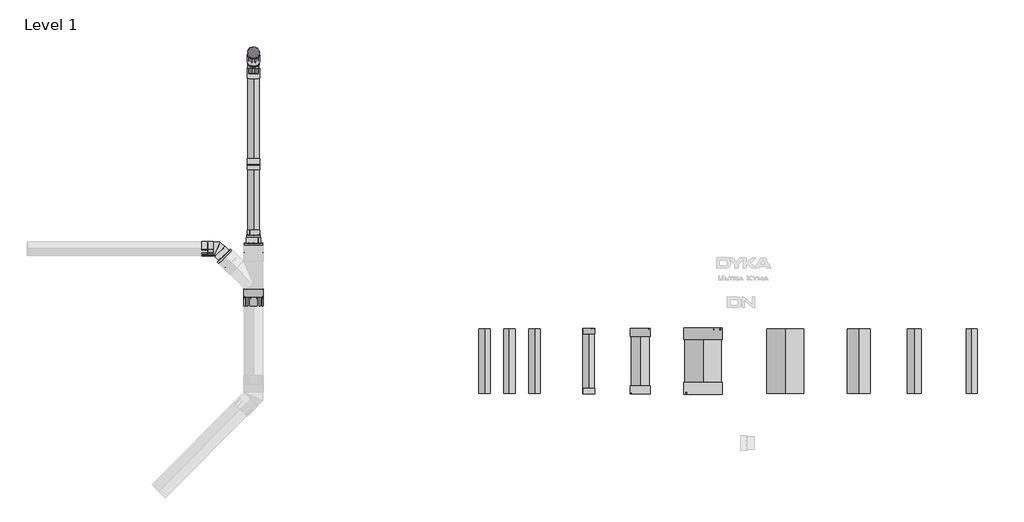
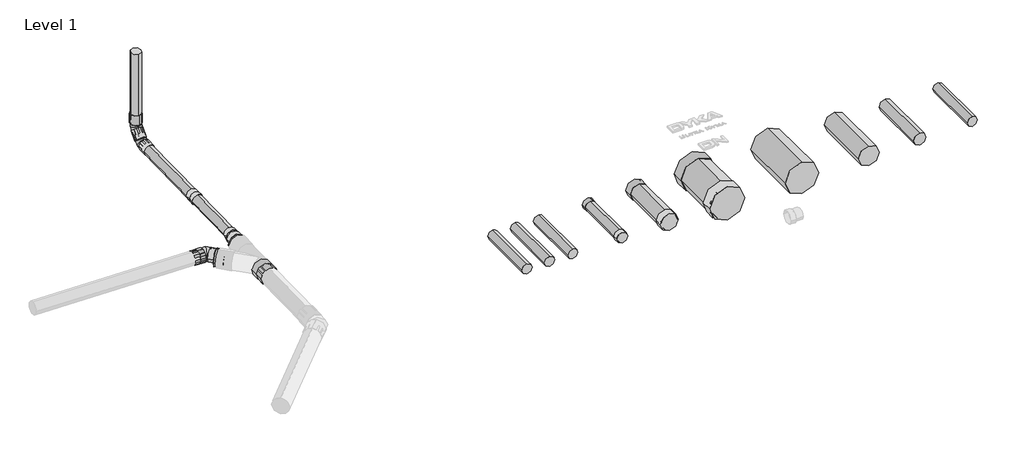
# One storey, part 2 of 2: 32 pipe fittings, 13 pipe segments.
"""IFC4 building model written with IfcOpenShell, lengths in millimetres."""

from ifc_helpers import new_model, si_unit, point, frame, frame_2d, origin, place, context, project, spatial, circle_curve, trimmed, segment, composite_curve, outline, extrude, transform, mapped, element, save
from components import zwart_4540c7c7, zwart_ccf00192, zwart_fea47d13, zwart_6c612464, std_dbbd8e8e, std_6883be76, std_358442b3, std_5c18e9fd, std_nested_292d5628, std_nested_15c7ba10, std_nested_ccdd82c8, std_nested_235c0f0a, std_nested_61e00e23, std_nested_169e8520

model = new_model("IFC4")

# Units and contexts
model_context = context("Model", 3, world=origin())
ifc_project = project(units=[si_unit("LENGTHUNIT", "METRE", prefix="MILLI")], contexts=[model_context])

# Site, building, storey
site = spatial("IfcSite", under=ifc_project)
building = spatial("IfcBuilding", under=site)
storey = spatial("IfcBuildingStorey", under=building, Name="Level 1", Elevation=0.0)

# Pipe fittings
placement = place(None, origin())
zwart_shape = zwart_4540c7c7(model_context)
element("IfcPipeFitting", 1, ObjectType="NLRS_52_PIF_UN_Ultra Kyma afsluitkap LV_Dyka : Zwart", at=placement, inside=storey, context=model_context, shape_type="MappedRepresentation", body=[
    mapped(zwart_shape, transform((4535.5611732, 2310.5607604, 0.0), x_axis=(0.0, 1.0, 0.0), y_axis=(-1.0, 0.0, 0.0), z_axis=(0.0, 0.0, 1.0))),
])
element("IfcPipeFitting", 2, ObjectType="NLRS_52_PIF_UN_Ultra Kyma afsluitkap LV_Dyka : Zwart", at=placement, inside=storey, context=model_context, shape_type="MappedRepresentation", body=[
    mapped(zwart_shape, transform((4535.5611732, 710.5607604, 0.0), x_axis=(0.0, -1.0, 0.0), y_axis=(1.0, 0.0, 0.0), z_axis=(0.0, 0.0, 1.0))),
])
zwart_2_shape = zwart_ccf00192(model_context)
element("IfcPipeFitting", 3, ObjectType="NLRS_52_PIF_UN_Ultra Kyma afsluitkap LV_Dyka : Zwart", at=placement, inside=storey, context=model_context, shape_type="MappedRepresentation", body=[
    mapped(zwart_2_shape, transform((3261.5483891, 2310.5607604, 0.0), x_axis=(0.0, 1.0, 0.0), y_axis=(-1.0, 0.0, 0.0), z_axis=(0.0, 0.0, 1.0))),
])
element("IfcPipeFitting", 4, ObjectType="NLRS_52_PIF_UN_Ultra Kyma afsluitkap LV_Dyka : Zwart", at=placement, inside=storey, context=model_context, shape_type="MappedRepresentation", body=[
    mapped(zwart_2_shape, transform((3261.5483891, 710.5607604, 0.0), x_axis=(0.0, -1.0, 0.0), y_axis=(1.0, 0.0, 0.0), z_axis=(0.0, 0.0, 1.0))),
])
zwart_3_shape = zwart_fea47d13(model_context)
element("IfcPipeFitting", 5, ObjectType="NLRS_52_PIF_UN_Ultra Kyma afsluitkap LV_Dyka : Zwart", at=placement, inside=storey, context=model_context, shape_type="MappedRepresentation", body=[
    mapped(zwart_3_shape, transform((6089.0815114, 2310.5607604, 0.0), x_axis=(0.0, 1.0, 0.0), y_axis=(-1.0, 0.0, 0.0), z_axis=(0.0, 0.0, 1.0))),
])
element("IfcPipeFitting", 6, ObjectType="NLRS_52_PIF_UN_Ultra Kyma afsluitkap LV_Dyka : Zwart", at=placement, inside=storey, context=model_context, shape_type="MappedRepresentation", body=[
    mapped(zwart_3_shape, transform((6089.0815114, 710.5607604, 0.0), x_axis=(0.0, -1.0, 0.0), y_axis=(1.0, 0.0, 0.0), z_axis=(0.0, 0.0, 1.0))),
])
zwart_4_shape = zwart_6c612464(model_context)
element("IfcPipeFitting", 7, ObjectType="NLRS_52_PIF_UN_Ultra Kyma buis mof_Dyka : Zwart", at=placement, inside=storey, context=model_context, shape_type="MappedRepresentation", body=[
    mapped(zwart_4_shape, transform((-5013.9809017, 6380.7654847, 617.7667566), x_axis=(0.0, -0.999800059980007, -0.019996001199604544), y_axis=(1.0000000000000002, 0.0, 0.0), z_axis=(0.0, -0.019996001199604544, 0.999800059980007))),
])
std_shape = std_dbbd8e8e(model_context)
element("IfcPipeFitting", 8, ObjectType="NLRS_52_PIF_WPB_Ultra Kyma dichtingsring SH_Dyka : std", at=placement, inside=storey, context=model_context, shape_type="MappedRepresentation", body=[
    mapped(std_shape, transform((4535.5611732, 2310.5607604, 0.0), x_axis=(0.0, 0.0, 1.0), y_axis=(-1.0, 0.0, 0.0), z_axis=(0.0, -1.0, 0.0))),
])
element("IfcPipeFitting", 9, ObjectType="NLRS_52_PIF_WPB_Ultra Kyma dichtingsring SH_Dyka : std", at=placement, inside=storey, context=model_context, shape_type="MappedRepresentation", body=[
    mapped(std_shape, transform((4535.5611732, 710.5607604, 0.0), x_axis=(0.0, 0.0, 1.0), y_axis=(1.0, 0.0, 0.0), z_axis=(0.0, 1.0, 0.0))),
])
element("IfcPipeFitting", 10, ObjectType="NLRS_52_PIF_WPB_Ultra Kyma dichtingsring SH_Dyka : std", at=placement, inside=storey, context=model_context, shape_type="MappedRepresentation", body=[
    mapped(std_shape, transform((-5013.9809017, 4180.7647204, 498.7517428), x_axis=(-0.9998001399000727, -0.00039976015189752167, 0.01998800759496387), y_axis=(0.019992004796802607, -0.01999200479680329, 0.9996002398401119), z_axis=(0.0, 0.999800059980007, 0.019996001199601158))),
])
element("IfcPipeFitting", 11, ObjectType="NLRS_52_PIF_WPB_Ultra Kyma dichtingsring SH_Dyka : std", at=placement, inside=storey, context=model_context, shape_type="MappedRepresentation", body=[
    mapped(std_shape, transform((-5573.7855953, 3948.7277665, 505.3070976), x_axis=(0.019992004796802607, -0.01999200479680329, 0.9996002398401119), y_axis=(0.7071067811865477, 0.7071067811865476, 0.0), z_axis=(-0.7068241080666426, 0.7068241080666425, 0.028272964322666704))),
])
element("IfcPipeFitting", 12, ObjectType="NLRS_52_PIF_WPB_Ultra Kyma dichtingsring SH_Dyka : std", at=placement, inside=storey, context=model_context, shape_type="MappedRepresentation", body=[
    mapped(std_shape, transform((-5013.9809017, 3095.9816554, 477.0560815), x_axis=(-0.9998001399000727, -0.00039976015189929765, 0.019988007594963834), y_axis=(0.019992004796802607, -0.01999200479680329, 0.9996002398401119), z_axis=(0.0, 0.999800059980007, 0.019996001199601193))),
])
element("IfcPipeFitting", 13, ObjectType="NLRS_52_PIF_WPB_Ultra Kyma dichtingsring SH_Dyka : std", at=placement, inside=storey, context=model_context, shape_type="MappedRepresentation", body=[
    mapped(std_shape, transform((-5013.9809017, 3071.9864539, 476.5761775), x_axis=(-0.9998001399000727, -0.00039976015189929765, 0.019988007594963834), y_axis=(-0.019992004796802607, 0.01999200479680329, -0.9996002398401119), z_axis=(0.0, -0.999800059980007, -0.019996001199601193))),
])
std_2_shape = std_6883be76(model_context)
element("IfcPipeFitting", 14, ObjectType="NLRS_52_PIF_WPB_Ultra Kyma dichtingsring SH_Dyka : std", at=placement, inside=storey, context=model_context, shape_type="MappedRepresentation", body=[
    mapped(std_2_shape, transform((6089.0815114, 2310.5607604, 0.0), x_axis=(0.0, 0.0, 1.0), y_axis=(-1.0, 0.0, 0.0), z_axis=(0.0, -1.0, 0.0))),
])
element("IfcPipeFitting", 15, ObjectType="NLRS_52_PIF_WPB_Ultra Kyma dichtingsring SH_Dyka : std", at=placement, inside=storey, context=model_context, shape_type="MappedRepresentation", body=[
    mapped(std_2_shape, transform((6089.0815114, 710.5607604, 0.0), x_axis=(0.0, 0.0, 1.0), y_axis=(1.0, 0.0, 0.0), z_axis=(0.0, 1.0, 0.0))),
])
std_3_shape = std_358442b3(model_context)
element("IfcPipeFitting", 16, ObjectType="NLRS_52_PIF_WPB_Ultra Kyma dichtingsring SH_Dyka : std", at=placement, inside=storey, context=model_context, shape_type="MappedRepresentation", body=[
    mapped(std_3_shape, transform((-5749.492022, 4124.4341933, 562.3553507), x_axis=(-0.7071067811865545, -0.7071067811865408, 0.0), y_axis=(0.019992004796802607, -0.01999200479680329, 0.9996002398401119), z_axis=(-0.7068241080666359, 0.7068241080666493, 0.028272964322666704))),
])
element("IfcPipeFitting", 17, ObjectType="NLRS_52_PIF_WPB_Ultra Kyma dichtingsring SH_Dyka : std", at=placement, inside=storey, context=model_context, shape_type="MappedRepresentation", body=[
    mapped(std_3_shape, transform((-6151.1346534, 4289.1242105, 573.6820037), x_axis=(0.019992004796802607, -0.01999200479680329, 0.9996002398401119), y_axis=(0.00039976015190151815, 0.9998001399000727, 0.019988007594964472), z_axis=(-0.9998000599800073, 0.0, 0.019996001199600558))),
])
element("IfcPipeFitting", 18, ObjectType="NLRS_52_PIF_WPB_Ultra Kyma dichtingsring SH_Dyka : std", at=placement, inside=storey, context=model_context, shape_type="MappedRepresentation", body=[
    mapped(std_3_shape, transform((-5013.9809017, 4429.7149354, 553.7407461), x_axis=(-1.0000000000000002, 0.0, 0.0), y_axis=(0.0, -0.019996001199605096, 0.999800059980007), z_axis=(0.0, 0.999800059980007, 0.019996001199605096))),
])
std_4_shape = std_5c18e9fd(model_context)
element("IfcPipeFitting", 19, ObjectType="NLRS_52_PIF_WPB_Ultra Kyma dichtingsring SH_Dyka : std", at=placement, inside=storey, context=model_context, shape_type="MappedRepresentation", body=[
    mapped(std_4_shape, transform((3261.5483891, 2310.5607604, 0.0), x_axis=(0.0, 0.0, 1.0), y_axis=(-1.0, 0.0, 0.0), z_axis=(0.0, -1.0, 0.0))),
])
element("IfcPipeFitting", 20, ObjectType="NLRS_52_PIF_WPB_Ultra Kyma dichtingsring SH_Dyka : std", at=placement, inside=storey, context=model_context, shape_type="MappedRepresentation", body=[
    mapped(std_4_shape, transform((3261.5483891, 710.5607604, 0.0), x_axis=(0.0, 0.0, 1.0), y_axis=(1.0, 0.0, 0.0), z_axis=(0.0, 1.0, 0.0))),
])
element("IfcPipeFitting", 21, ObjectType="NLRS_52_PIF_WPB_Ultra Kyma dichtingsring SH_Dyka : std", at=placement, inside=storey, context=model_context, shape_type="MappedRepresentation", body=[
    mapped(std_4_shape, transform((-5013.9809017, 8992.3523663, 839.2774563), x_axis=(-1.0, 0.0, 0.0), y_axis=(0.0, 0.714141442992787, -0.7000014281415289), z_axis=(0.0, -0.7000014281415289, -0.714141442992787))),
])
element("IfcPipeFitting", 22, ObjectType="NLRS_52_PIF_WPB_Ultra Kyma dichtingsring SH_Dyka : std", at=placement, inside=storey, context=model_context, shape_type="MappedRepresentation", body=[
    mapped(std_4_shape, transform((-5013.9809017, 4629.1750473, 582.7349479), x_axis=(-1.0000000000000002, 0.0, 0.0), y_axis=(0.0, -0.019996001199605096, 0.999800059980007), z_axis=(0.0, 0.999800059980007, 0.019996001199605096))),
])
element("IfcPipeFitting", 23, ObjectType="NLRS_52_PIF_WPB_Ultra Kyma dichtingsring SH_Dyka : std", at=placement, inside=storey, context=model_context, shape_type="MappedRepresentation", body=[
    mapped(std_4_shape, transform((-5013.9809017, 8623.2932212, 668.7633239), x_axis=(-1.0, 0.0, 0.0), y_axis=(0.0, 0.019996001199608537, -0.9998000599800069), z_axis=(0.0, -0.9998000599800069, -0.019996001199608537))),
])
element("IfcPipeFitting", 24, ObjectType="NLRS_52_PIF_WPB_Ultra Kyma dichtingsring SH_Dyka : std", at=placement, inside=storey, context=model_context, shape_type="MappedRepresentation", body=[
    mapped(std_4_shape, transform((-5013.9809017, 9136.5526605, 1219.3905936), x_axis=(0.0, -1.0, 0.0), y_axis=(-1.0, 0.0, 0.0), z_axis=(0.0, 0.0, -1.0))),
])
element("IfcPipeFitting", 25, ObjectType="NLRS_52_PIF_WPB_Ultra Kyma dichtingsring SH_Dyka : std", at=placement, inside=storey, context=model_context, shape_type="MappedRepresentation", body=[
    mapped(std_4_shape, transform((-5013.9809017, 6371.7672841, 617.5867926), x_axis=(1.0000000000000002, 0.0, 0.0), y_axis=(0.0, -0.019996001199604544, 0.999800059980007), z_axis=(0.0, -0.999800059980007, -0.019996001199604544))),
])
std_nested_shape = std_nested_292d5628(model_context)
element("IfcPipeFitting", 26, ObjectType="NLRS_52_PIF_WPB_Ultra Kyma verloop MV SH_Dyka : std (nested)", at=placement, inside=storey, context=model_context, shape_type="MappedRepresentation", body=[
    mapped(std_nested_shape, transform((-5573.7855953, 3948.7277665, 505.3070976), x_axis=(-0.7068241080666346, 0.7068241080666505, 0.028272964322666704), y_axis=(-0.7071067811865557, -0.7071067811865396, 0.0), z_axis=(0.019992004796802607, -0.01999200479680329, 0.9996002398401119))),
])
element("IfcPipeFitting", 27, ObjectType="NLRS_52_PIF_WPB_Ultra Kyma verloop MV SH_Dyka : std (nested)", at=placement, inside=storey, context=model_context, shape_type="MappedRepresentation", body=[
    mapped(std_nested_shape, transform((-5013.9809017, 4180.7647204, 498.7517428), x_axis=(0.0, 0.999800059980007, 0.019996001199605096), y_axis=(-1.0000000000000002, 0.0, 0.0), z_axis=(0.0, -0.019996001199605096, 0.999800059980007))),
])
std_nested_2_shape = std_nested_15c7ba10(model_context)
element("IfcPipeFitting", 28, ObjectType="NLRS_52_PIF_WPB_Ultra Kyma bocht 1MV SH_Dyka : std (nested)", at=placement, inside=storey, context=model_context, shape_type="MappedRepresentation", body=[
    mapped(std_nested_2_shape, transform((-5914.1820392, 4289.1242105, 568.9429514), x_axis=(-0.7068241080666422, 0.706824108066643, 0.028272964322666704), y_axis=(-0.7071067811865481, -0.7071067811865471, 0.0), z_axis=(0.019992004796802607, -0.01999200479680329, 0.9996002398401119))),
])
std_nested_3_shape = std_nested_ccdd82c8(model_context)
element("IfcPipeFitting", 29, ObjectType="NLRS_52_PIF_WPB_Ultra Kyma steekmof 2MV SH_Dyka : std (nested)", at=placement, inside=storey, context=model_context, shape_type="MappedRepresentation", body=[
    mapped(std_nested_3_shape, transform((-5013.9809017, 3083.9840546, 476.8161295), x_axis=(0.0, 0.999800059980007, 0.019996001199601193), y_axis=(-0.9998001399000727, -0.00039976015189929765, 0.019988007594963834), z_axis=(0.019992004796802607, -0.01999200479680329, 0.9996002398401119))),
])
std_nested_4_shape = std_nested_235c0f0a(model_context)
element("IfcPipeFitting", 30, ObjectType="NLRS_52_PIF_WPB_Ultra Kyma bocht 1MV SH_Dyka : std (nested)", at=placement, inside=storey, context=model_context, shape_type="MappedRepresentation", body=[
    mapped(std_nested_4_shape, transform((-5013.9809017, 9136.5526605, 986.3905936), x_axis=(0.0, 0.0, -1.0), y_axis=(0.0, -1.0, 0.0), z_axis=(-1.0, 0.0, 0.0))),
])
std_nested_5_shape = std_nested_61e00e23(model_context)
element("IfcPipeFitting", 31, ObjectType="NLRS_52_PIF_WPB_Ultra Kyma bocht 1MV SH_Dyka : std (nested)", at=placement, inside=storey, context=model_context, shape_type="MappedRepresentation", body=[
    mapped(std_nested_5_shape, transform((-5013.9809017, 8829.2520336, 672.8825001), x_axis=(0.0, -0.7000014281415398, -0.7141414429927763), y_axis=(0.0, -0.7141414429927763, 0.7000014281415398), z_axis=(-1.0, 0.0, 0.0))),
])
std_nested_6_shape = std_nested_169e8520(model_context)
element("IfcPipeFitting", 32, ObjectType="NLRS_52_PIF_WPB_Ultra Kyma verloop MV SH_Dyka : std (nested)", at=placement, inside=storey, context=model_context, shape_type="MappedRepresentation", body=[
    mapped(std_nested_6_shape, transform((-5013.9809017, 4429.7149354, 553.7407461), x_axis=(0.0, 0.999800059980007, 0.019996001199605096), y_axis=(-1.0000000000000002, 0.0, 0.0), z_axis=(0.0, -0.019996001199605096, 0.999800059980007))),
])

# Pipe segments
element("IfcPipeSegment", 33, ObjectType="NLRS_52_PI_UN Ultra Kyma PP BS SN8 RAL6024 DN_Dyka", at=placement, inside=storey, context=model_context, shape_type="SweptSolid", body=[
    extrude(outline(composite_curve([segment(trimmed(circle_curve(frame_2d((0.0, 4535.5611732)), 227.0), [point((0.0, 4308.5611732))], [point((-227.0, 4535.5611732))], False, "CARTESIAN"), True, "CONTINUOUS"), segment(trimmed(circle_curve(frame_2d((0.0, 4535.5611732)), 227.0), [point((-227.0, 4535.5611732))], [point((0.0, 4762.5611732))], False, "CARTESIAN"), True, "CONTINUOUS"), segment(trimmed(circle_curve(frame_2d((0.0, 4535.5611732)), 227.0), [point((0.0, 4762.5611732))], [point((227.0, 4535.5611732))], False, "CARTESIAN"), True, "CONTINUOUS"), segment(trimmed(circle_curve(frame_2d((0.0, 4535.5611732)), 227.0), [point((227.0, 4535.5611732))], [point((0.0, 4308.5611732))], False, "CARTESIAN"), True, "CONTINUOUS")], self_intersect=False)), frame((0.0, 710.5607604, 0.0), z_axis=(0.0, 1.0, 0.0), x_axis=(0.0, 0.0, 1.0)), (0.0, 0.0, 1.0), 1600.0),
])
element("IfcPipeSegment", 34, ObjectType="NLRS_52_PI_UN Ultra Kyma PP BS SN8 RAL8023 DN_Dyka", at=placement, inside=storey, context=model_context, shape_type="SweptSolid", body=[
    extrude(outline(composite_curve([segment(trimmed(circle_curve(frame_2d((0.0, 3261.5483891)), 140.0), [point((0.0, 3121.5483891))], [point((-140.0, 3261.5483891))], False, "CARTESIAN"), True, "CONTINUOUS"), segment(trimmed(circle_curve(frame_2d((0.0, 3261.5483891)), 140.0), [point((-140.0, 3261.5483891))], [point((0.0, 3401.5483891))], False, "CARTESIAN"), True, "CONTINUOUS"), segment(trimmed(circle_curve(frame_2d((0.0, 3261.5483891)), 140.0), [point((0.0, 3401.5483891))], [point((140.0, 3261.5483891))], False, "CARTESIAN"), True, "CONTINUOUS"), segment(trimmed(circle_curve(frame_2d((0.0, 3261.5483891)), 140.0), [point((140.0, 3261.5483891))], [point((0.0, 3121.5483891))], False, "CARTESIAN"), True, "CONTINUOUS")], self_intersect=False)), frame((0.0, 710.5607604, 0.0), z_axis=(0.0, 1.0, 0.0), x_axis=(0.0, 0.0, 1.0)), (0.0, 0.0, 1.0), 1600.0),
])
element("IfcPipeSegment", 35, ObjectType="NLRS_52_PI_UN Ultra Kyma PP BS SN8 RAL9011 DN_Dyka", at=placement, inside=storey, context=model_context, shape_type="SweptSolid", body=[
    extrude(outline(composite_curve([segment(trimmed(circle_curve(frame_2d((0.0, 6089.0815114)), 453.0), [point((0.0, 5636.0815114))], [point((-453.0, 6089.0815114))], False, "CARTESIAN"), True, "CONTINUOUS"), segment(trimmed(circle_curve(frame_2d((0.0, 6089.0815114)), 453.0), [point((-453.0, 6089.0815114))], [point((0.0, 6542.0815114))], False, "CARTESIAN"), True, "CONTINUOUS"), segment(trimmed(circle_curve(frame_2d((0.0, 6089.0815114)), 453.0), [point((0.0, 6542.0815114))], [point((453.0, 6089.0815114))], False, "CARTESIAN"), True, "CONTINUOUS"), segment(trimmed(circle_curve(frame_2d((0.0, 6089.0815114)), 453.0), [point((453.0, 6089.0815114))], [point((0.0, 5636.0815114))], False, "CARTESIAN"), True, "CONTINUOUS")], self_intersect=False)), frame((0.0, 710.5607604, 0.0), z_axis=(0.0, 1.0, 0.0), x_axis=(0.0, 0.0, 1.0)), (0.0, 0.0, 1.0), 1600.0),
])
element("IfcPipeSegment", 36, ObjectType="NLRS_52_PI_UN Ultra Kyma PP BS SN8 IT Kaal RAL6024 DN_Dyka", at=placement, inside=storey, context=model_context, shape_type="SweptSolid", body=[
    extrude(outline(composite_curve([segment(trimmed(circle_curve(frame_2d((0.0, 8117.6410571)), 453.0), [point((0.0, 7664.6410571))], [point((-453.0, 8117.6410571))], False, "CARTESIAN"), True, "CONTINUOUS"), segment(trimmed(circle_curve(frame_2d((0.0, 8117.6410571)), 453.0), [point((-453.0, 8117.6410571))], [point((0.0, 8570.6410571))], False, "CARTESIAN"), True, "CONTINUOUS"), segment(trimmed(circle_curve(frame_2d((0.0, 8117.6410571)), 453.0), [point((0.0, 8570.6410571))], [point((453.0, 8117.6410571))], False, "CARTESIAN"), True, "CONTINUOUS"), segment(trimmed(circle_curve(frame_2d((0.0, 8117.6410571)), 453.0), [point((453.0, 8117.6410571))], [point((0.0, 7664.6410571))], False, "CARTESIAN"), True, "CONTINUOUS")], self_intersect=False)), frame((0.0, 710.5607604, 0.0), z_axis=(0.0, 1.0, 0.0), x_axis=(0.0, 0.0, 1.0)), (0.0, 0.0, 1.0), 1600.0),
])
element("IfcPipeSegment", 37, ObjectType="NLRS_52_PI_UN Ultra Kyma PP BS SN8 IT Geo RAL6024 DN_Dyka", at=placement, inside=storey, context=model_context, shape_type="SweptSolid", body=[
    extrude(outline(composite_curve([segment(trimmed(circle_curve(frame_2d((0.0, 9927.5404066)), 284.0), [point((0.0, 9643.5404066))], [point((-284.0, 9927.5404066))], False, "CARTESIAN"), True, "CONTINUOUS"), segment(trimmed(circle_curve(frame_2d((0.0, 9927.5404066)), 284.0), [point((-284.0, 9927.5404066))], [point((0.0, 10211.5404066))], False, "CARTESIAN"), True, "CONTINUOUS"), segment(trimmed(circle_curve(frame_2d((0.0, 9927.5404066)), 284.0), [point((0.0, 10211.5404066))], [point((284.0, 9927.5404066))], False, "CARTESIAN"), True, "CONTINUOUS"), segment(trimmed(circle_curve(frame_2d((0.0, 9927.5404066)), 284.0), [point((284.0, 9927.5404066))], [point((0.0, 9643.5404066))], False, "CARTESIAN"), True, "CONTINUOUS")], self_intersect=False)), frame((0.0, 710.5607604, 0.0), z_axis=(0.0, 1.0, 0.0), x_axis=(0.0, 0.0, 1.0)), (0.0, 0.0, 1.0), 1600.0),
])
element("IfcPipeSegment", 38, ObjectType="NLRS_52_PI_UN Ultra Kyma PP BS SN8 IT PP450 RAL6024 DN_Dyka", at=placement, inside=storey, context=model_context, shape_type="SweptSolid", body=[
    extrude(outline(composite_curve([segment(trimmed(circle_curve(frame_2d((0.0, 11300.6908886)), 170.0), [point((0.0, 11130.6908886))], [point((-170.0, 11300.6908886))], False, "CARTESIAN"), True, "CONTINUOUS"), segment(trimmed(circle_curve(frame_2d((0.0, 11300.6908886)), 170.0), [point((-170.0, 11300.6908886))], [point((0.0, 11470.6908886))], False, "CARTESIAN"), True, "CONTINUOUS"), segment(trimmed(circle_curve(frame_2d((0.0, 11300.6908886)), 170.0), [point((0.0, 11470.6908886))], [point((170.0, 11300.6908886))], False, "CARTESIAN"), True, "CONTINUOUS"), segment(trimmed(circle_curve(frame_2d((0.0, 11300.6908886)), 170.0), [point((170.0, 11300.6908886))], [point((0.0, 11130.6908886))], False, "CARTESIAN"), True, "CONTINUOUS")], self_intersect=False)), frame((0.0, 710.5607604, 0.0), z_axis=(0.0, 1.0, 0.0), x_axis=(0.0, 0.0, 1.0)), (0.0, 0.0, 1.0), 1600.0),
])
element("IfcPipeSegment", 39, ObjectType="NLRS_52_PI_UN Ultra Kyma PP BS SN8 IT Ekomat RAL6024 DN_Dyka", at=placement, inside=storey, context=model_context, shape_type="SweptSolid", body=[
    extrude(outline(composite_curve([segment(trimmed(circle_curve(frame_2d((0.0, 12724.6541538)), 140.0), [point((0.0, 12584.6541538))], [point((-140.0, 12724.6541538))], False, "CARTESIAN"), True, "CONTINUOUS"), segment(trimmed(circle_curve(frame_2d((0.0, 12724.6541538)), 140.0), [point((-140.0, 12724.6541538))], [point((0.0, 12864.6541538))], False, "CARTESIAN"), True, "CONTINUOUS"), segment(trimmed(circle_curve(frame_2d((0.0, 12724.6541538)), 140.0), [point((0.0, 12864.6541538))], [point((140.0, 12724.6541538))], False, "CARTESIAN"), True, "CONTINUOUS"), segment(trimmed(circle_curve(frame_2d((0.0, 12724.6541538)), 140.0), [point((140.0, 12724.6541538))], [point((0.0, 12584.6541538))], False, "CARTESIAN"), True, "CONTINUOUS")], self_intersect=False)), frame((0.0, 710.5607604, 0.0), z_axis=(0.0, 1.0, 0.0), x_axis=(0.0, 0.0, 1.0)), (0.0, 0.0, 1.0), 1600.0),
])
element("IfcPipeSegment", 40, ObjectType="NLRS_52_PI_UN Ultra Kyma PP BS SN8 RAL9011 DN_Dyka", at=placement, inside=storey, context=model_context, shape_type="SweptSolid", body=[
    extrude(outline(composite_curve([segment(trimmed(circle_curve(frame_2d((-5013.9809017, 9136.5526605)), 140.0), [point((-5153.9809017, 9136.5526605))], [point((-5013.9809017, 9276.5526605))], False, "CARTESIAN"), True, "CONTINUOUS"), segment(trimmed(circle_curve(frame_2d((-5013.9809017, 9136.5526605)), 140.0), [point((-5013.9809017, 9276.5526605))], [point((-4873.9809017, 9136.5526605))], False, "CARTESIAN"), True, "CONTINUOUS"), segment(trimmed(circle_curve(frame_2d((-5013.9809017, 9136.5526605)), 140.0), [point((-4873.9809017, 9136.5526605))], [point((-5013.9809017, 8996.5526605))], False, "CARTESIAN"), True, "CONTINUOUS"), segment(trimmed(circle_curve(frame_2d((-5013.9809017, 9136.5526605)), 140.0), [point((-5013.9809017, 8996.5526605))], [point((-5153.9809017, 9136.5526605))], False, "CARTESIAN"), True, "CONTINUOUS")], self_intersect=False)), frame((0.0, 0.0, 1219.3905936), z_axis=(0.0, 0.0, 1.0), x_axis=(1.0, 0.0, 0.0)), (0.0, 0.0, 1.0), 1893.9204776),
])
element("IfcPipeSegment", 41, ObjectType="NLRS_52_PI_UN Ultra Kyma PP BS SN8 RAL9011 DN_Dyka", at=placement, inside=storey, context=model_context, shape_type="SweptSolid", body=[
    extrude(outline(composite_curve([segment(trimmed(circle_curve(frame_2d((0.0, -140.0)), 140.0), [point((-140.0, -140.0))], [point((0.0, 0.0))], False, "CARTESIAN"), True, "CONTINUOUS"), segment(trimmed(circle_curve(frame_2d((0.0, -140.0)), 140.0), [point((0.0, 0.0))], [point((140.0, -140.0))], False, "CARTESIAN"), True, "CONTINUOUS"), segment(trimmed(circle_curve(frame_2d((0.0, -140.0)), 140.0), [point((140.0, -140.0))], [point((0.0, -280.0))], False, "CARTESIAN"), True, "CONTINUOUS"), segment(trimmed(circle_curve(frame_2d((0.0, -140.0)), 140.0), [point((0.0, -280.0))], [point((-140.0, -140.0))], False, "CARTESIAN"), True, "CONTINUOUS")], self_intersect=False)), frame((-5013.9809017, 4631.9744875, 442.7629395), z_axis=(0.0, 0.9998000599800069, 0.019996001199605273), x_axis=(1.0, 0.0, 0.0)), (0.0, 0.0, 1.0), 1731.9407204),
])
element("IfcPipeSegment", 42, ObjectType="NLRS_52_PI_UN Ultra Kyma PP BS SN8 RAL6024 DN (tap)_Dyka", at=placement, inside=storey, context=model_context, shape_type="SweptSolid", body=[
    extrude(outline(composite_curve([segment(trimmed(circle_curve(frame_2d((0.0, 1926.8801897)), 140.0), [point((0.0, 1786.8801897))], [point((-140.0, 1926.8801897))], False, "CARTESIAN"), True, "CONTINUOUS"), segment(trimmed(circle_curve(frame_2d((0.0, 1926.8801897)), 140.0), [point((-140.0, 1926.8801897))], [point((0.0, 2066.8801897))], False, "CARTESIAN"), True, "CONTINUOUS"), segment(trimmed(circle_curve(frame_2d((0.0, 1926.8801897)), 140.0), [point((0.0, 2066.8801897))], [point((140.0, 1926.8801897))], False, "CARTESIAN"), True, "CONTINUOUS"), segment(trimmed(circle_curve(frame_2d((0.0, 1926.8801897)), 140.0), [point((140.0, 1926.8801897))], [point((0.0, 1786.8801897))], False, "CARTESIAN"), True, "CONTINUOUS")], self_intersect=False)), frame((0.0, 710.5607604, 0.0), z_axis=(0.0, 1.0, 0.0), x_axis=(0.0, 0.0, 1.0)), (0.0, 0.0, 1.0), 1600.0),
])
element("IfcPipeSegment", 43, ObjectType="NLRS_52_PI_UN Ultra Kyma PP BS SN8 RAL8023 DN (tap)_Dyka", at=placement, inside=storey, context=model_context, shape_type="SweptSolid", body=[
    extrude(outline(composite_curve([segment(trimmed(circle_curve(frame_2d((0.0, 1303.383145)), 140.0), [point((0.0, 1163.383145))], [point((-140.0, 1303.383145))], False, "CARTESIAN"), True, "CONTINUOUS"), segment(trimmed(circle_curve(frame_2d((0.0, 1303.383145)), 140.0), [point((-140.0, 1303.383145))], [point((0.0, 1443.383145))], False, "CARTESIAN"), True, "CONTINUOUS"), segment(trimmed(circle_curve(frame_2d((0.0, 1303.383145)), 140.0), [point((0.0, 1443.383145))], [point((140.0, 1303.383145))], False, "CARTESIAN"), True, "CONTINUOUS"), segment(trimmed(circle_curve(frame_2d((0.0, 1303.383145)), 140.0), [point((140.0, 1303.383145))], [point((0.0, 1163.383145))], False, "CARTESIAN"), True, "CONTINUOUS")], self_intersect=False)), frame((0.0, 710.5607604, 0.0), z_axis=(0.0, 1.0, 0.0), x_axis=(0.0, 0.0, 1.0)), (0.0, 0.0, 1.0), 1600.0),
])
element("IfcPipeSegment", 44, ObjectType="NLRS_52_PI_UN Ultra Kyma PP BS SN8 RAL9011 DN (tap)_Dyka", at=placement, inside=storey, context=model_context, shape_type="SweptSolid", body=[
    extrude(outline(composite_curve([segment(trimmed(circle_curve(frame_2d((0.0, 692.0859315)), 140.0), [point((0.0, 552.0859315))], [point((-140.0, 692.0859315))], False, "CARTESIAN"), True, "CONTINUOUS"), segment(trimmed(circle_curve(frame_2d((0.0, 692.0859315)), 140.0), [point((-140.0, 692.0859315))], [point((0.0, 832.0859315))], False, "CARTESIAN"), True, "CONTINUOUS"), segment(trimmed(circle_curve(frame_2d((0.0, 692.0859315)), 140.0), [point((0.0, 832.0859315))], [point((140.0, 692.0859315))], False, "CARTESIAN"), True, "CONTINUOUS"), segment(trimmed(circle_curve(frame_2d((0.0, 692.0859315)), 140.0), [point((140.0, 692.0859315))], [point((0.0, 552.0859315))], False, "CARTESIAN"), True, "CONTINUOUS")], self_intersect=False)), frame((0.0, 710.5607604, 0.0), z_axis=(0.0, 1.0, 0.0), x_axis=(0.0, 0.0, 1.0)), (0.0, 0.0, 1.0), 1600.0),
])
element("IfcPipeSegment", 45, ObjectType="NLRS_52_PI_UN Ultra Kyma PP BS SN8 RAL9011 DN_Dyka", at=placement, inside=storey, context=model_context, shape_type="SweptSolid", body=[
    extrude(outline(composite_curve([segment(trimmed(circle_curve(frame_2d((0.0, -140.0)), 140.0), [point((-140.0, -140.0))], [point((0.0, 0.0))], False, "CARTESIAN"), True, "CONTINUOUS"), segment(trimmed(circle_curve(frame_2d((0.0, -140.0)), 140.0), [point((0.0, 0.0))], [point((140.0, -140.0))], False, "CARTESIAN"), True, "CONTINUOUS"), segment(trimmed(circle_curve(frame_2d((0.0, -140.0)), 140.0), [point((140.0, -140.0))], [point((0.0, -280.0))], False, "CARTESIAN"), True, "CONTINUOUS"), segment(trimmed(circle_curve(frame_2d((0.0, -140.0)), 140.0), [point((0.0, -280.0))], [point((-140.0, -140.0))], False, "CARTESIAN"), True, "CONTINUOUS")], self_intersect=False)), frame((-5013.9809017, 6392.5631254, 477.9747122), z_axis=(0.0, 0.999800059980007, 0.019996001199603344), x_axis=(1.0, 0.0, 0.0)), (0.0, 0.0, 1.0), 2233.9761972),
])

save(model, "model.ifc")
